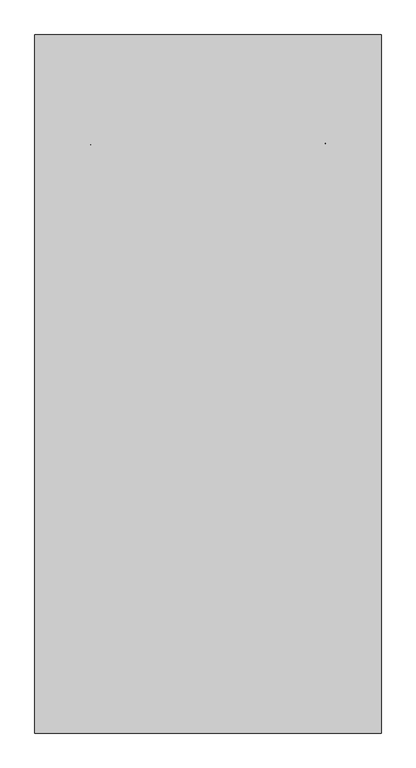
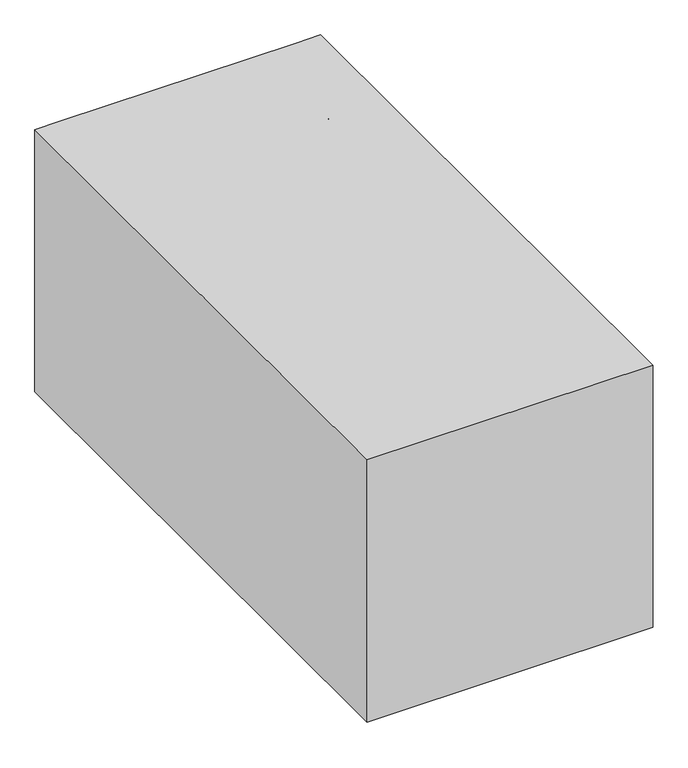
"""IFC4 building model written with IfcOpenShell, lengths in millimetres: furniture geometry, BIMHealth-Chair_Visitor_Bed-LOD2A-v1 : BIMHealth-Chair_Visitor_Bed-LOD2A-v1."""

from ifc_helpers import new_model, si_unit, point, frame, frame_2d, origin, origin_with_axes, place, context, project, spatial, polyline, circle_curve, ellipse_curve, trimmed, segment, composite_curve, outline, extrude, source, transform, mapped, element, save
from ifc_brep_helpers import plane_surface, cylinder_surface, advanced_brep


def furniture_01accdc3(model_context):
    return source(origin(), model_context, "Body", "SolidModel", [
        extrude(outline(polyline([(-343.1055706, 385.2931414), (-343.1055706, 321.0), (-383.1055706, 321.0), (-383.1055706, 385.2931414), (-343.1055706, 385.2931414)])), frame((0.0, 0.0, 32.0775814), z_axis=(0.0, 0.0, 1.0), x_axis=(1.0, 0.0, 0.0)), (0.0, 0.0, 1.0), 17.9224186),
        extrude(outline(composite_curve([segment(trimmed(circle_curve(frame_2d((353.6859408, 0.0)), 40.0), [point((393.6859408, 0.0))], [point((313.6859408, 0.0))], True, "CARTESIAN"), True, "CONTINUOUS"), segment(polyline([(313.6859408, 0.0), (306.1759379, 0.0)]), True, "CONTINUOUS"), segment(trimmed(circle_curve(frame_2d((353.6759379, 0.0)), 47.5), [point((306.1759379, 0.0))], [point((401.1759379, 0.0))], False, "CARTESIAN"), True, "CONTINUOUS"), segment(polyline([(401.1759379, 0.0), (393.6859408, 0.0)]), True, "CONTINUOUS")], self_intersect=False)), frame((-394.9467986, 0.0, 0.0), z_axis=(1.0, 0.0, 0.0), x_axis=(0.0, 1.0, 0.0)), (0.0, 0.0, 1.0), 63.4467986),
        extrude(outline(composite_curve([segment(trimmed(circle_curve(frame_2d((353.6859408, 0.0)), 40.0), [point((313.6859408, 0.0))], [point((393.6859408, 0.0))], False, "CARTESIAN"), True, "CONTINUOUS"), segment(trimmed(circle_curve(frame_2d((353.6859408, 0.0)), 40.0), [point((393.6859408, 0.0))], [point((313.6859408, 0.0))], False, "CARTESIAN"), True, "CONTINUOUS")], self_intersect=False)), frame((-393.1055706, 0.0, 0.0), z_axis=(1.0, 0.0, 0.0), x_axis=(0.0, 1.0, 0.0)), (0.0, 0.0, 1.0), 10.0),
        extrude(outline(composite_curve([segment(trimmed(circle_curve(frame_2d((353.6859408, 0.0)), 40.0), [point((313.6859408, 0.0))], [point((393.6859408, 0.0))], False, "CARTESIAN"), True, "CONTINUOUS"), segment(trimmed(circle_curve(frame_2d((353.6859408, 0.0)), 40.0), [point((393.6859408, 0.0))], [point((313.6859408, 0.0))], False, "CARTESIAN"), True, "CONTINUOUS")], self_intersect=False)), frame((-343.1055706, 0.0, 0.0), z_axis=(1.0, 0.0, 0.0), x_axis=(0.0, 1.0, 0.0)), (0.0, 0.0, 1.0), 10.0),
        extrude(outline(polyline([(381.5, 385.2931414), (381.5, 321.0), (341.5, 321.0), (341.5, 385.2931414), (381.5, 385.2931414)])), frame((0.0, 0.0, 32.0775814), z_axis=(0.0, 0.0, 1.0), x_axis=(1.0, 0.0, 0.0)), (0.0, 0.0, 1.0), 17.9224186),
        extrude(outline(composite_curve([segment(trimmed(circle_curve(frame_2d((353.6859408, 0.0)), 40.0), [point((393.6859408, 0.0))], [point((313.6859408, 0.0))], True, "CARTESIAN"), True, "CONTINUOUS"), segment(polyline([(313.6859408, 0.0), (306.1759379, 0.0)]), True, "CONTINUOUS"), segment(trimmed(circle_curve(frame_2d((353.6759379, 0.0)), 47.5), [point((306.1759379, 0.0))], [point((401.1759379, 0.0))], False, "CARTESIAN"), True, "CONTINUOUS"), segment(polyline([(401.1759379, 0.0), (393.6859408, 0.0)]), True, "CONTINUOUS")], self_intersect=False)), frame((329.658772, 0.0, 0.0), z_axis=(1.0, 0.0, 0.0), x_axis=(0.0, 1.0, 0.0)), (0.0, 0.0, 1.0), 63.4467986),
        extrude(outline(composite_curve([segment(trimmed(circle_curve(frame_2d((353.6859408, 0.0)), 40.0), [point((313.6859408, 0.0))], [point((393.6859408, 0.0))], False, "CARTESIAN"), True, "CONTINUOUS"), segment(trimmed(circle_curve(frame_2d((353.6859408, 0.0)), 40.0), [point((393.6859408, 0.0))], [point((313.6859408, 0.0))], False, "CARTESIAN"), True, "CONTINUOUS")], self_intersect=False)), frame((331.5, 0.0, 0.0), z_axis=(1.0, 0.0, 0.0), x_axis=(0.0, 1.0, 0.0)), (0.0, 0.0, 1.0), 10.0),
        extrude(outline(composite_curve([segment(trimmed(circle_curve(frame_2d((353.6859408, 0.0)), 40.0), [point((313.6859408, 0.0))], [point((393.6859408, 0.0))], False, "CARTESIAN"), True, "CONTINUOUS"), segment(trimmed(circle_curve(frame_2d((353.6859408, 0.0)), 40.0), [point((393.6859408, 0.0))], [point((313.6859408, 0.0))], False, "CARTESIAN"), True, "CONTINUOUS")], self_intersect=False)), frame((381.5, 0.0, 0.0), z_axis=(1.0, 0.0, 0.0), x_axis=(0.0, 1.0, 0.0)), (0.0, 0.0, 1.0), 10.0),
        extrude(outline(polyline([(-343.1055706, -304.7068586), (-343.1055706, -369.0), (-383.1055706, -369.0), (-383.1055706, -304.7068586), (-343.1055706, -304.7068586)])), frame((0.0, 0.0, 32.0775814), z_axis=(0.0, 0.0, 1.0), x_axis=(1.0, 0.0, 0.0)), (0.0, 0.0, 1.0), 17.9224186),
        extrude(outline(composite_curve([segment(trimmed(circle_curve(frame_2d((-336.3140592, 0.0)), 40.0), [point((-296.3140592, 0.0))], [point((-376.3140592, 0.0))], True, "CARTESIAN"), True, "CONTINUOUS"), segment(polyline([(-376.3140592, 0.0), (-383.8240621, 0.0)]), True, "CONTINUOUS"), segment(trimmed(circle_curve(frame_2d((-336.3240621, 0.0)), 47.5), [point((-383.8240621, 0.0))], [point((-288.8240621, 0.0))], False, "CARTESIAN"), True, "CONTINUOUS"), segment(polyline([(-288.8240621, 0.0), (-296.3140592, 0.0)]), True, "CONTINUOUS")], self_intersect=False)), frame((-394.9467986, 0.0, 0.0), z_axis=(1.0, 0.0, 0.0), x_axis=(0.0, 1.0, 0.0)), (0.0, 0.0, 1.0), 63.4467986),
        extrude(outline(composite_curve([segment(trimmed(circle_curve(frame_2d((-336.3140592, 0.0)), 40.0), [point((-376.3140592, 0.0))], [point((-296.3140592, 0.0))], False, "CARTESIAN"), True, "CONTINUOUS"), segment(trimmed(circle_curve(frame_2d((-336.3140592, 0.0)), 40.0), [point((-296.3140592, 0.0))], [point((-376.3140592, 0.0))], False, "CARTESIAN"), True, "CONTINUOUS")], self_intersect=False)), frame((-393.1055706, 0.0, 0.0), z_axis=(1.0, 0.0, 0.0), x_axis=(0.0, 1.0, 0.0)), (0.0, 0.0, 1.0), 10.0),
        extrude(outline(composite_curve([segment(trimmed(circle_curve(frame_2d((-336.3140592, 0.0)), 40.0), [point((-376.3140592, 0.0))], [point((-296.3140592, 0.0))], False, "CARTESIAN"), True, "CONTINUOUS"), segment(trimmed(circle_curve(frame_2d((-336.3140592, 0.0)), 40.0), [point((-296.3140592, 0.0))], [point((-376.3140592, 0.0))], False, "CARTESIAN"), True, "CONTINUOUS")], self_intersect=False)), frame((-343.1055706, 0.0, 0.0), z_axis=(1.0, 0.0, 0.0), x_axis=(0.0, 1.0, 0.0)), (0.0, 0.0, 1.0), 10.0),
        extrude(outline(polyline([(381.5, -304.7068586), (381.5, -369.0), (341.5, -369.0), (341.5, -304.7068586), (381.5, -304.7068586)])), frame((0.0, 0.0, 32.0775814), z_axis=(0.0, 0.0, 1.0), x_axis=(1.0, 0.0, 0.0)), (0.0, 0.0, 1.0), 17.9224186),
        extrude(outline(composite_curve([segment(trimmed(circle_curve(frame_2d((-336.3140592, 0.0)), 40.0), [point((-296.3140592, 0.0))], [point((-376.3140592, 0.0))], True, "CARTESIAN"), True, "CONTINUOUS"), segment(polyline([(-376.3140592, 0.0), (-383.8240621, 0.0)]), True, "CONTINUOUS"), segment(trimmed(circle_curve(frame_2d((-336.3240621, 0.0)), 47.5), [point((-383.8240621, 0.0))], [point((-288.8240621, 0.0))], False, "CARTESIAN"), True, "CONTINUOUS"), segment(polyline([(-288.8240621, 0.0), (-296.3140592, 0.0)]), True, "CONTINUOUS")], self_intersect=False)), frame((329.658772, 0.0, 0.0), z_axis=(1.0, 0.0, 0.0), x_axis=(0.0, 1.0, 0.0)), (0.0, 0.0, 1.0), 63.4467986),
        extrude(outline(composite_curve([segment(trimmed(circle_curve(frame_2d((-336.3140592, 0.0)), 40.0), [point((-376.3140592, 0.0))], [point((-296.3140592, 0.0))], False, "CARTESIAN"), True, "CONTINUOUS"), segment(trimmed(circle_curve(frame_2d((-336.3140592, 0.0)), 40.0), [point((-296.3140592, 0.0))], [point((-376.3140592, 0.0))], False, "CARTESIAN"), True, "CONTINUOUS")], self_intersect=False)), frame((331.5, 0.0, 0.0), z_axis=(1.0, 0.0, 0.0), x_axis=(0.0, 1.0, 0.0)), (0.0, 0.0, 1.0), 10.0),
        extrude(outline(composite_curve([segment(trimmed(circle_curve(frame_2d((-336.3140592, 0.0)), 40.0), [point((-376.3140592, 0.0))], [point((-296.3140592, 0.0))], False, "CARTESIAN"), True, "CONTINUOUS"), segment(trimmed(circle_curve(frame_2d((-336.3140592, 0.0)), 40.0), [point((-296.3140592, 0.0))], [point((-376.3140592, 0.0))], False, "CARTESIAN"), True, "CONTINUOUS")], self_intersect=False)), frame((381.5, 0.0, 0.0), z_axis=(1.0, 0.0, 0.0), x_axis=(0.0, 1.0, 0.0)), (0.0, 0.0, 1.0), 10.0),
        extrude(outline(composite_curve([segment(polyline([(0.0, 650.0), (-360.0, 650.0), (-360.0, 675.0), (0.0, 675.0)]), True, "CONTINUOUS"), segment(trimmed(circle_curve(frame_2d((0.0, -201.21125)), 876.21125), [point((0.0, 675.0))], [point((406.5, 575.0))], False, "CARTESIAN"), True, "CONTINUOUS"), segment(polyline([(406.5, 575.0), (406.5, 550.0)]), True, "CONTINUOUS"), segment(trimmed(circle_curve(frame_2d((0.0, -226.21125)), 876.21125), [point((406.5, 550.0))], [point((0.0, 650.0))], True, "CARTESIAN"), True, "CONTINUOUS")], self_intersect=False)), frame((-406.5, 0.0, 0.0), z_axis=(1.0, 0.0, 0.0), x_axis=(0.0, 1.0, 0.0)), (0.0, 0.0, 1.0), 75.0),
        extrude(outline(composite_curve([segment(polyline([(0.0, 650.0), (-360.0, 650.0), (-360.0, 675.0), (0.0, 675.0)]), True, "CONTINUOUS"), segment(trimmed(circle_curve(frame_2d((0.0, -201.21125)), 876.21125), [point((0.0, 675.0))], [point((406.5, 575.0))], False, "CARTESIAN"), True, "CONTINUOUS"), segment(polyline([(406.5, 575.0), (406.5, 550.0)]), True, "CONTINUOUS"), segment(trimmed(circle_curve(frame_2d((0.0, -226.21125)), 876.21125), [point((406.5, 550.0))], [point((0.0, 650.0))], True, "CARTESIAN"), True, "CONTINUOUS")], self_intersect=False)), frame((331.5, 0.0, 0.0), z_axis=(1.0, 0.0, 0.0), x_axis=(0.0, 1.0, 0.0)), (0.0, 0.0, 1.0), 75.0),
        advanced_brep(
        [(284.0484696, 444.355742, 872.3632462), (284.0484696, 444.355742, 367.2663069), (-284.0484696, 444.355742, 367.2663069), (-284.0484696, 444.355742, 872.3632462), (284.0484696, 344.355742, 367.2663069), (284.0484696, 344.355742, 872.3632462), (-284.0484696, 344.355742, 872.3632462), (-284.0484696, 344.355742, 367.2663069)],
        [
            (0, 1),
            (1, 2),
            (2, 3),
            (3, 0),
            (4, 5),
            (5, 6),
            (6, 7),
            (7, 4),
            (4, 1, ellipse_curve(frame((284.0484696, 394.355742, 367.2663069), z_axis=(0.7071067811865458, 0.0, 0.7071067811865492), x_axis=(0.7071067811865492, 0.0, -0.7071067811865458)), 70.7106781, 50.0)),
            (0, 5, ellipse_curve(frame((284.0484696, 394.355742, 872.3632462), z_axis=(0.7071067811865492, 0.0, -0.7071067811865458), x_axis=(-0.7071067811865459, 0.0, -0.7071067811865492)), 70.7106781, 50.0)),
            (3, 6, ellipse_curve(frame((-284.0484696, 394.355742, 872.3632462), z_axis=(0.7071067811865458, 0.0, 0.7071067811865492), x_axis=(0.7071067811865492, 0.0, -0.7071067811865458)), 70.7106781, 50.0)),
            (2, 7, ellipse_curve(frame((-284.0484696, 394.355742, 367.2663069), z_axis=(-0.7071067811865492, 0.0, 0.7071067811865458), x_axis=(0.7071067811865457, 0.0, 0.7071067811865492)), 70.7106781, 50.0)),
        ],
        [
            plane_surface(frame((-234.0484696, 444.355742, 417.2663069), z_axis=(0.0, 1.0, 0.0), x_axis=(-1.0, 0.0, 0.0))),
            plane_surface(frame((-234.0484696, 344.355742, 417.2663069), z_axis=(0.0, -1.0, 0.0), x_axis=(1.0, 0.0, 0.0))),
            cylinder_surface(frame((284.0484696, 394.355742, 319.8147765), z_axis=(0.0, 0.0, -1.0), x_axis=(1.0, 0.0, 0.0)), 50.0),
            cylinder_surface(frame((331.5, 394.355742, 872.3632462), z_axis=(1.0, 0.0, 0.0), x_axis=(0.0, 0.0, 1.0)), 50.0),
            cylinder_surface(frame((-284.0484696, 394.355742, 919.8147765), z_axis=(0.0, 0.0, 1.0), x_axis=(-1.0, 0.0, 0.0)), 50.0),
            cylinder_surface(frame((-331.5, 394.355742, 367.2663069), z_axis=(-1.0, 0.0, 0.0), x_axis=(0.0, 0.0, -1.0)), 50.0),
        ],
        [
            (0, [[1, 2, 3, 4]]),
            (1, [[5, 6, 7, 8]]),
            (2, [[9, -1, 10, -5]]),
            (3, [[-10, -4, 11, -6]]),
            (4, [[-11, -3, 12, -7]]),
            (5, [[-9, -8, -12, -2]]),
        ],
    ),
        advanced_brep(
        [(284.0484696, 339.1319596, 852.9899637), (284.0484696, 251.4227965, 355.5665819), (-284.0484696, 251.4227965, 355.5665819), (-284.0484696, 339.1319596, 852.9899637), (284.0484696, 152.9420212, 372.9313997), (284.0484696, 240.6511843, 870.3547815), (-284.0484696, 240.6511843, 870.3547815), (-284.0484696, 152.9420212, 372.9313997)],
        [
            (0, 1),
            (1, 2),
            (2, 3),
            (3, 0),
            (4, 5),
            (5, 6),
            (6, 7),
            (7, 4),
            (4, 1, ellipse_curve(frame((284.0484696, 202.1824089, 364.2489908), z_axis=(0.707106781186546, 0.1227878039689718, 0.6963642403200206), x_axis=(0.707106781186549, -0.1227878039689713, -0.6963642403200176)), 70.7106781, 50.0)),
            (0, 5, ellipse_curve(frame((284.0484696, 289.8915719, 861.6723726), z_axis=(0.707106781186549, -0.12278780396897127, -0.6963642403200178), x_axis=(-0.7071067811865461, -0.12278780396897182, -0.6963642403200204)), 70.7106781, 50.0)),
            (3, 6, ellipse_curve(frame((-284.0484696, 289.8915719, 861.6723726), z_axis=(0.707106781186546, 0.12278780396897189, 0.6963642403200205), x_axis=(0.707106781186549, -0.12278780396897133, -0.6963642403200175)), 70.7106781, 50.0)),
            (2, 7, ellipse_curve(frame((-284.0484696, 202.1824089, 364.2489908), z_axis=(-0.707106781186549, 0.12278780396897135, 0.6963642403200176), x_axis=(0.707106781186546, 0.12278780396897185, 0.6963642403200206)), 70.7106781, 50.0)),
        ],
        [
            plane_surface(frame((-234.0484696, 260.1052054, 404.8069695), z_axis=(0.0, 0.9848077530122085, -0.17364817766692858), x_axis=(-1.0, 0.0, 0.0))),
            plane_surface(frame((-234.0484696, 161.6244301, 422.1717873), z_axis=(0.0, -0.9848077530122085, 0.17364817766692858), x_axis=(1.0, 0.0, 0.0))),
            cylinder_surface(frame((284.0484696, 193.9425371, 317.5183558), z_axis=(0.0, -0.17364817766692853, -0.9848077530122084), x_axis=(1.0, 0.0, 0.0)), 50.0),
            cylinder_surface(frame((331.5, 289.8915719, 861.6723726), z_axis=(1.0, 0.0, 0.0), x_axis=(0.0, 0.17364817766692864, 0.9848077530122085)), 50.0),
            cylinder_surface(frame((-284.0484696, 298.1314437, 908.4030076), z_axis=(0.0, 0.17364817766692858, 0.9848077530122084), x_axis=(-1.0, 0.0, 0.0)), 50.0),
            cylinder_surface(frame((-331.5, 202.1824089, 364.2489908), z_axis=(-1.0, 0.0, 0.0), x_axis=(0.0, -0.17364817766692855, -0.9848077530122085)), 50.0),
        ],
        [
            (0, [[1, 2, 3, 4]]),
            (1, [[5, 6, 7, 8]]),
            (2, [[9, -1, 10, -5]]),
            (3, [[-10, -4, 11, -6]]),
            (4, [[-11, -3, 12, -7]]),
            (5, [[-9, -8, -12, -2]]),
        ],
    ),
        extrude(outline(polyline([(331.5, -360.0), (-331.5, -360.0), (-331.5, 406.5), (331.5, 406.5), (331.5, -360.0)])), frame((0.0, 0.0, 50.0), z_axis=(0.0, 0.0, 1.0), x_axis=(1.0, 0.0, 0.0)), (0.0, 0.0, 1.0), 267.2663069),
        extrude(outline(composite_curve([segment(polyline([(-360.0, 650.0), (0.0, 650.0)]), True, "CONTINUOUS"), segment(trimmed(circle_curve(frame_2d((0.0, -226.21125)), 876.21125), [point((0.0, 650.0))], [point((406.5, 550.0))], False, "CARTESIAN"), True, "CONTINUOUS"), segment(polyline([(406.5, 550.0), (406.5, 50.0), (331.5, 50.0)]), True, "CONTINUOUS"), segment(trimmed(circle_curve(frame_2d((331.5, 0.0)), 50.0), [point((331.5, 50.0))], [point((281.5, 0.0))], True, "CARTESIAN"), True, "CONTINUOUS"), segment(polyline([(281.5, 0.0), (-281.5, 0.0)]), True, "CONTINUOUS"), segment(trimmed(circle_curve(frame_2d((-331.5, 0.0)), 50.0), [point((-281.5, 0.0))], [point((-331.5, 50.0))], True, "CARTESIAN"), True, "CONTINUOUS"), segment(polyline([(-331.5, 50.0), (-406.5, 50.0)]), True, "CONTINUOUS"), segment(trimmed(circle_curve(frame_2d((1327.9809918, 217.3795981)), 1742.5384474), [point((-406.5, 50.0))], [point((-360.0, 650.0))], False, "CARTESIAN"), True, "CONTINUOUS")], self_intersect=False)), frame((331.5, 0.0, 0.0), z_axis=(1.0, 0.0, 0.0), x_axis=(0.0, 1.0, 0.0)), (0.0, 0.0, 1.0), 75.0),
        extrude(outline(composite_curve([segment(polyline([(-360.0, 650.0), (0.0, 650.0)]), True, "CONTINUOUS"), segment(trimmed(circle_curve(frame_2d((0.0, -226.21125)), 876.21125), [point((0.0, 650.0))], [point((406.5, 550.0))], False, "CARTESIAN"), True, "CONTINUOUS"), segment(polyline([(406.5, 550.0), (406.5, 50.0), (331.5, 50.0)]), True, "CONTINUOUS"), segment(trimmed(circle_curve(frame_2d((331.5, 0.0)), 50.0), [point((331.5, 50.0))], [point((281.5, 0.0))], True, "CARTESIAN"), True, "CONTINUOUS"), segment(polyline([(281.5, 0.0), (-281.5, 0.0)]), True, "CONTINUOUS"), segment(trimmed(circle_curve(frame_2d((-331.5, 0.0)), 50.0), [point((-281.5, 0.0))], [point((-331.5, 50.0))], True, "CARTESIAN"), True, "CONTINUOUS"), segment(polyline([(-331.5, 50.0), (-406.5, 50.0)]), True, "CONTINUOUS"), segment(trimmed(circle_curve(frame_2d((1327.9809918, 217.3795981)), 1742.5384474), [point((-406.5, 50.0))], [point((-360.0, 650.0))], False, "CARTESIAN"), True, "CONTINUOUS")], self_intersect=False)), frame((-406.5, 0.0, 0.0), z_axis=(1.0, 0.0, 0.0), x_axis=(0.0, 1.0, 0.0)), (0.0, 0.0, 1.0), 75.0),
        advanced_brep(
        [(262.1022593, -360.0, 417.2663069), (262.1022593, 101.2045185, 417.2663069), (-262.1022593, 101.2045185, 417.2663069), (-262.1022593, -360.0, 417.2663069), (234.0484696, 73.1507289, 315.437456), (234.0484696, -331.9462104, 315.437456), (-234.0484696, -331.9462104, 315.437456), (-234.0484696, 73.1507289, 315.437456), (-234.0484696, 73.1507289, 317.2663069), (234.0484696, 73.1507289, 317.2663069), (-234.0484696, -331.9462104, 317.2663069), (234.0484696, -331.9462104, 317.2663069), (262.1022593, 101.2045185, 317.2663069), (262.1022593, -360.0, 317.2663069), (-262.1022593, -360.0, 317.2663069), (-262.1022593, 101.2045185, 317.2663069)],
        [
            (0, 1),
            (1, 2),
            (2, 3),
            (3, 0),
            (4, 5),
            (5, 6),
            (6, 7),
            (7, 4),
            (7, 8),
            (8, 9),
            (9, 4),
            (6, 10),
            (10, 8),
            (5, 11),
            (11, 10),
            (9, 11),
            (12, 1, ellipse_curve(frame((262.1022593, 101.2045185, 367.2663069), z_axis=(0.7071067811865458, -0.7071067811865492, 0.0), x_axis=(0.7071067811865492, 0.7071067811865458, 0.0)), 70.7106781, 50.0)),
            (0, 13, ellipse_curve(frame((262.1022593, -360.0, 367.2663069), z_axis=(0.7071067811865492, 0.7071067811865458, 0.0), x_axis=(-0.7071067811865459, 0.7071067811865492, 0.0)), 70.7106781, 50.0)),
            (13, 12),
            (3, 14, ellipse_curve(frame((-262.1022593, -360.0, 367.2663069), z_axis=(0.7071067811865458, -0.7071067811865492, 0.0), x_axis=(0.7071067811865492, 0.7071067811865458, 0.0)), 70.7106781, 50.0)),
            (14, 13),
            (2, 15, ellipse_curve(frame((-262.1022593, 101.2045185, 367.2663069), z_axis=(-0.7071067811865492, -0.7071067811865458, 0.0), x_axis=(0.7071067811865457, -0.7071067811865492, 0.0)), 70.7106781, 50.0)),
            (15, 14),
            (12, 15),
        ],
        [
            plane_surface(frame((-234.0484696, 73.1507289, 417.2663069), z_axis=(0.0, 0.0, 1.0), x_axis=(-1.0, 0.0, 0.0))),
            plane_surface(frame((-234.0484696, 73.1507289, 315.437456), z_axis=(0.0, 0.0, -1.0), x_axis=(1.0, 0.0, 0.0))),
            plane_surface(frame((234.0484696, 73.1507289, 417.2663069), z_axis=(0.0, 1.0, 0.0), x_axis=(0.0, 0.0, -1.0))),
            plane_surface(frame((-234.0484696, 73.1507289, 417.2663069), z_axis=(-1.0, 0.0, 0.0), x_axis=(0.0, 0.0, -1.0))),
            plane_surface(frame((-234.0484696, -331.9462104, 417.2663069), z_axis=(0.0, -1.0, 0.0), x_axis=(0.0, 0.0, -1.0))),
            plane_surface(frame((234.0484696, -331.9462104, 417.2663069), z_axis=(1.0, 0.0, 0.0), x_axis=(0.0, 0.0, -1.0))),
            cylinder_surface(frame((262.1022593, 170.6022593, 367.2663069), z_axis=(0.0, 1.0, 0.0), x_axis=(1.0, 0.0, 0.0)), 50.0),
            cylinder_surface(frame((331.5, -360.0, 367.2663069), z_axis=(1.0, 0.0, 0.0), x_axis=(0.0, -1.0, 0.0)), 50.0),
            cylinder_surface(frame((-262.1022593, -429.3977407, 367.2663069), z_axis=(0.0, -1.0, 0.0), x_axis=(-1.0, 0.0, 0.0)), 50.0),
            cylinder_surface(frame((-331.5, 101.2045185, 367.2663069), z_axis=(-1.0, 0.0, 0.0), x_axis=(0.0, 1.0, 0.0)), 50.0),
            plane_surface(frame((-262.1022593, 101.2045185, 317.2663069), z_axis=(0.0, 0.0, -1.0), x_axis=(1.0, 0.0, 0.0))),
        ],
        [
            (0, [[1, 2, 3, 4]]),
            (1, [[5, 6, 7, 8]]),
            (2, [[-8, 9, 10, 11]]),
            (3, [[-7, 12, 13, -9]]),
            (4, [[-6, 14, 15, -12]]),
            (5, [[-5, -11, 16, -14]]),
            (6, [[17, -1, 18, 19]]),
            (7, [[-18, -4, 20, 21]]),
            (8, [[-20, -3, 22, 23]]),
            (9, [[-17, 24, -22, -2]]),
            (10, [[-19, -21, -23, -24], [-10, -13, -15, -16]]),
        ],
    ),
        extrude(outline(polyline([(406.5, 606.5), (491.5, 606.5), (491.5, -1373.5), (-491.5, -1373.5), (-491.5, 606.5), (-406.5, 606.5), (406.5, 606.5)])), origin_with_axes(), (0.0, 0.0, 1.0), 953.0),
    ])


if __name__ == "__main__":
    model = new_model("IFC4")
    model_context = context("Model", 3, world=origin())
    ifc_project = project(units=[si_unit("LENGTHUNIT", "METRE", prefix="MILLI")], contexts=[model_context])
    site = spatial("IfcSite", under=ifc_project)
    building = spatial("IfcBuilding", under=site)
    placement = place(None, origin())
    furniture_shape = furniture_01accdc3(model_context)
    element("IfcFurniture", 1, ObjectType="BIMHealth-Chair_Visitor_Bed-LOD2A-v1 : BIMHealth-Chair_Visitor_Bed-LOD2A-v1", at=placement, inside=building, context=model_context, shape_type="MappedRepresentation", body=[
        mapped(furniture_shape, transform((0.0, 0.0, 0.0), x_axis=(1.0, 0.0, 0.0), y_axis=(0.0, 1.0, 0.0), z_axis=(0.0, 0.0, 1.0))),
    ])
    save(model, "model.ifc")
